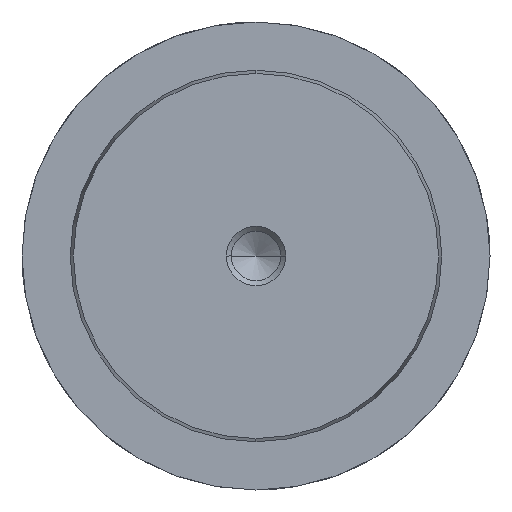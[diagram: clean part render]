
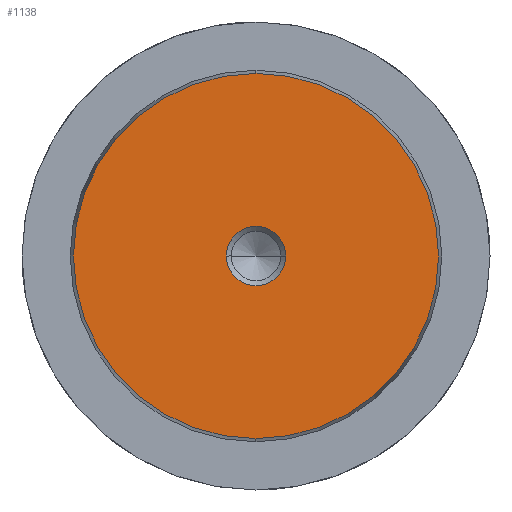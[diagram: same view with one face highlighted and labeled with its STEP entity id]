
A CAD part, left-side view. The second image highlights one B-rep face of the part: STEP entity #1138.
In plain terms, the highlighted planar face has unit normal (-1, 0, 0).
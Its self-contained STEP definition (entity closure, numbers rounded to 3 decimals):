
#1052=CARTESIAN_POINT('Vertex',(0.,0.,-24.578)) ;
#1055=CARTESIAN_POINT('Axis2P3D Location',(0.,0.,0.)) ;
#1059=CARTESIAN_POINT('Vertex',(0.,24.578,0.)) ;
#1062=CARTESIAN_POINT('Axis2P3D Location',(0.,0.,0.)) ;
#1066=CARTESIAN_POINT('Vertex',(0.,0.,24.578)) ;
#1088=CARTESIAN_POINT('Axis2P3D Location',(0.,0.,0.)) ;
#1092=CARTESIAN_POINT('Vertex',(0.,-24.578,0.)) ;
#1095=CARTESIAN_POINT('Axis2P3D Location',(0.,0.,0.)) ;
#1109=CARTESIAN_POINT('Axis2P3D Location',(0.,0.,0.)) ;
#1120=CARTESIAN_POINT('Axis2P3D Location',(0.,0.,0.)) ;
#1124=CARTESIAN_POINT('Vertex',(0.,4.,0.)) ;
#1126=CARTESIAN_POINT('Vertex',(0.,-4.,0.)) ;
#1129=CARTESIAN_POINT('Axis2P3D Location',(0.,0.,0.)) ;
#1056=DIRECTION('Axis2P3D Direction',(1.,-0.,0.)) ;
#1063=DIRECTION('Axis2P3D Direction',(1.,-0.,0.)) ;
#1089=DIRECTION('Axis2P3D Direction',(1.,0.,-0.)) ;
#1096=DIRECTION('Axis2P3D Direction',(1.,0.,-0.)) ;
#1110=DIRECTION('Axis2P3D Direction',(1.,0.,-0.)) ;
#1111=DIRECTION('Axis2P3D XDirection',(-0.,0.,-1.)) ;
#1121=DIRECTION('Axis2P3D Direction',(1.,0.,-0.)) ;
#1130=DIRECTION('Axis2P3D Direction',(1.,0.,-0.)) ;
#1057=AXIS2_PLACEMENT_3D('Circle Axis2P3D',#1055,#1056,$) ;
#1064=AXIS2_PLACEMENT_3D('Circle Axis2P3D',#1062,#1063,$) ;
#1090=AXIS2_PLACEMENT_3D('Circle Axis2P3D',#1088,#1089,$) ;
#1097=AXIS2_PLACEMENT_3D('Circle Axis2P3D',#1095,#1096,$) ;
#1112=AXIS2_PLACEMENT_3D('Plane Axis2P3D',#1109,#1110,#1111) ;
#1122=AXIS2_PLACEMENT_3D('Circle Axis2P3D',#1120,#1121,$) ;
#1131=AXIS2_PLACEMENT_3D('Circle Axis2P3D',#1129,#1130,$) ;
#1115=ORIENTED_EDGE('',*,*,#1061,.F.) ;
#1116=ORIENTED_EDGE('',*,*,#1099,.F.) ;
#1117=ORIENTED_EDGE('',*,*,#1094,.F.) ;
#1118=ORIENTED_EDGE('',*,*,#1068,.F.) ;
#1135=ORIENTED_EDGE('',*,*,#1128,.T.) ;
#1136=ORIENTED_EDGE('',*,*,#1133,.T.) ;
#1137=FACE_BOUND('',#1134,.T.) ;
#1138=ADVANCED_FACE('719-50x355',(#1119,#1137),#1113,.F.) ;
#1058=CIRCLE('generated circle',#1057,24.578) ;
#1065=CIRCLE('generated circle',#1064,24.578) ;
#1091=CIRCLE('generated circle',#1090,24.578) ;
#1098=CIRCLE('generated circle',#1097,24.578) ;
#1123=CIRCLE('generated circle',#1122,4.) ;
#1132=CIRCLE('generated circle',#1131,4.) ;
#1061=EDGE_CURVE('',#1053,#1060,#1058,.T.) ;
#1068=EDGE_CURVE('',#1060,#1067,#1065,.T.) ;
#1094=EDGE_CURVE('',#1067,#1093,#1091,.T.) ;
#1099=EDGE_CURVE('',#1093,#1053,#1098,.T.) ;
#1128=EDGE_CURVE('',#1125,#1127,#1123,.T.) ;
#1133=EDGE_CURVE('',#1127,#1125,#1132,.T.) ;
#1114=EDGE_LOOP('',(#1115,#1116,#1117,#1118)) ;
#1134=EDGE_LOOP('',(#1135,#1136)) ;
#1119=FACE_OUTER_BOUND('',#1114,.T.) ;
#1113=PLANE('Plane',#1112) ;
#1053=VERTEX_POINT('',#1052) ;
#1060=VERTEX_POINT('',#1059) ;
#1067=VERTEX_POINT('',#1066) ;
#1093=VERTEX_POINT('',#1092) ;
#1125=VERTEX_POINT('',#1124) ;
#1127=VERTEX_POINT('',#1126) ;
